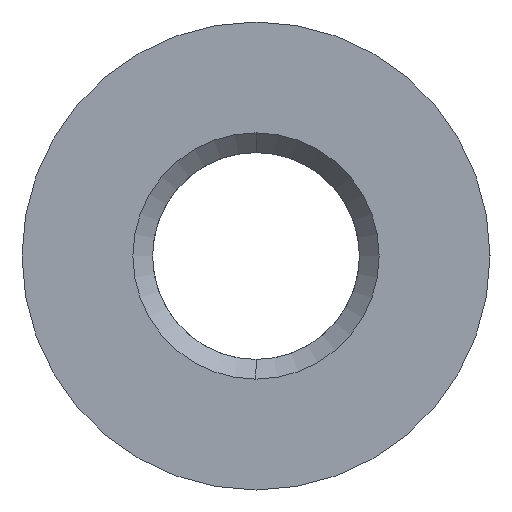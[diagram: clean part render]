
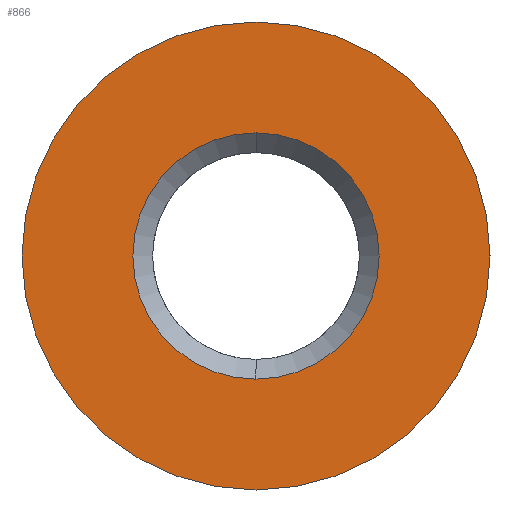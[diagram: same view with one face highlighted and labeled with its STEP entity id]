
A CAD part, left-side view. The second image highlights one B-rep face of the part: STEP entity #866.
In plain terms, the highlighted planar face has unit normal (-1, 0, 0).
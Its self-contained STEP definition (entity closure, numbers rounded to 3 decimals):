
#14 = ORIENTED_EDGE ( 'NONE', *, *, #420, .F. ) ;
#31 = CARTESIAN_POINT ( 'NONE',  ( -11.06, 0., -2.5 ) ) ;
#62 = VERTEX_POINT ( 'NONE', #881 ) ;
#66 = EDGE_LOOP ( 'NONE', ( #14, #696 ) ) ;
#72 = EDGE_CURVE ( 'NONE', #573, #872, #686, .T. ) ;
#97 = EDGE_LOOP ( 'NONE', ( #345, #105 ) ) ;
#101 = DIRECTION ( 'NONE',  ( 1., 0., 0. ) ) ;
#105 = ORIENTED_EDGE ( 'NONE', *, *, #72, .T. ) ;
#109 = CIRCLE ( 'NONE', #695, 4.75 ) ;
#132 = EDGE_CURVE ( 'NONE', #872, #573, #869, .T. ) ;
#202 = DIRECTION ( 'NONE',  ( 0., 0., -1. ) ) ;
#216 = DIRECTION ( 'NONE',  ( 0., 0., -1. ) ) ;
#228 = CARTESIAN_POINT ( 'NONE',  ( -11.06, 0., -4.75 ) ) ;
#265 = FACE_OUTER_BOUND ( 'NONE', #66, .T. ) ;
#270 = DIRECTION ( 'NONE',  ( 1., 0., 0. ) ) ;
#275 = DIRECTION ( 'NONE',  ( 0., 0., 1. ) ) ;
#293 = AXIS2_PLACEMENT_3D ( 'NONE', #369, #637, #578 ) ;
#345 = ORIENTED_EDGE ( 'NONE', *, *, #132, .T. ) ;
#369 = CARTESIAN_POINT ( 'NONE',  ( -11.06, 0., 0. ) ) ;
#373 = CARTESIAN_POINT ( 'NONE',  ( -11.06, 0., 0. ) ) ;
#406 = DIRECTION ( 'NONE',  ( 1., 0., 0. ) ) ;
#410 = FACE_BOUND ( 'NONE', #97, .T. ) ;
#420 = EDGE_CURVE ( 'NONE', #561, #62, #109, .T. ) ;
#445 = DIRECTION ( 'NONE',  ( 0., 0., 1. ) ) ;
#490 = EDGE_CURVE ( 'NONE', #62, #561, #781, .T. ) ;
#561 = VERTEX_POINT ( 'NONE', #228 ) ;
#573 = VERTEX_POINT ( 'NONE', #31 ) ;
#578 = DIRECTION ( 'NONE',  ( 0., 0., 1. ) ) ;
#616 = DIRECTION ( 'NONE',  ( -1., 0., 0. ) ) ;
#623 = AXIS2_PLACEMENT_3D ( 'NONE', #373, #101, #445 ) ;
#637 = DIRECTION ( 'NONE',  ( 1., 0., 0. ) ) ;
#639 = AXIS2_PLACEMENT_3D ( 'NONE', #828, #270, #202 ) ;
#671 = AXIS2_PLACEMENT_3D ( 'NONE', #748, #616, #275 ) ;
#686 = CIRCLE ( 'NONE', #293, 2.5 ) ;
#695 = AXIS2_PLACEMENT_3D ( 'NONE', #884, #406, #216 ) ;
#696 = ORIENTED_EDGE ( 'NONE', *, *, #490, .F. ) ;
#748 = CARTESIAN_POINT ( 'NONE',  ( -11.06, 2.1, 0. ) ) ;
#756 = CARTESIAN_POINT ( 'NONE',  ( -11.06, 0., 2.5 ) ) ;
#758 = PLANE ( 'NONE',  #671 ) ;
#781 = CIRCLE ( 'NONE', #639, 4.75 ) ;
#828 = CARTESIAN_POINT ( 'NONE',  ( -11.06, 0., 0. ) ) ;
#866 = ADVANCED_FACE ( 'NONE', ( #410, #265 ), #758, .T. ) ;
#869 = CIRCLE ( 'NONE', #623, 2.5 ) ;
#872 = VERTEX_POINT ( 'NONE', #756 ) ;
#881 = CARTESIAN_POINT ( 'NONE',  ( -11.06, 0., 4.75 ) ) ;
#884 = CARTESIAN_POINT ( 'NONE',  ( -11.06, 0., 0. ) ) ;
